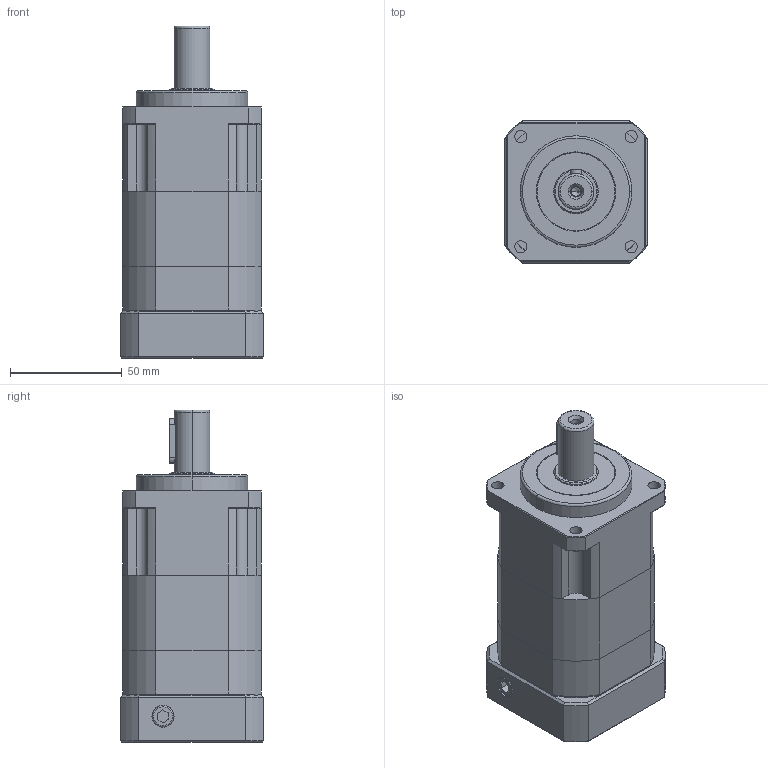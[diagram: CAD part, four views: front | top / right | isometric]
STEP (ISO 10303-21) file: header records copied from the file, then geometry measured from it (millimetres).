
FILE_DESCRIPTION (( 'STEP AP203' ), '1' );
FILE_NAME ('SB62A-2-50M4.STEP', '2011-07-11T09:00:21', ( '1' ), ( '' ), 'SwSTEP 2.0', 'SolidWorks 2011', '' );
FILE_SCHEMA (( 'CONFIG_CONTROL_DESIGN' ));
Length unit declared in the file: millimetre
Products named in the file (1): SB62A-2-50M4
Bounding box: 64 x 64 x 148.8 mm (x, y, z)
Volume: 294895 mm3; surface area: 86363.4 mm2
Topology: 17 solids, 17 shells, 613 faces, 1462 edges, 902 vertices
Faces by surface type: plane 272, cylinder 194, cone 113, torus 23, bspline 11
Entity records: 18768 total; most frequent: CARTESIAN_POINT 4373, DIRECTION 3085, ORIENTED_EDGE 2868, EDGE_CURVE 1434, AXIS2_PLACEMENT_3D 1162, VERTEX_POINT 902, VECTOR 761, LINE 761
